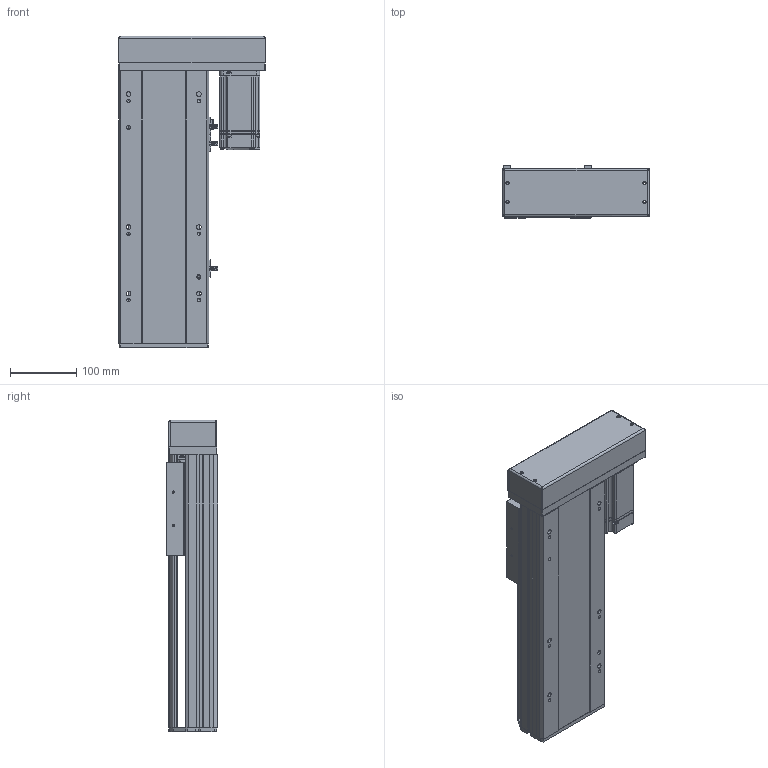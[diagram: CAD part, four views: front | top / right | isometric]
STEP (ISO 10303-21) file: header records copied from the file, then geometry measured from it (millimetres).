
FILE_DESCRIPTION (( 'STEP AP214' ), '1' );
FILE_NAME ('QTH14-200-BL-P40.STEP', '2021-11-13T04:19:18', ( '' ), ( '' ), 'SwSTEP 2.0', 'SolidWorks 2020', '' );
FILE_SCHEMA (( 'AUTOMOTIVE_DESIGN' ));
Length unit declared in the file: millimetre
Products named in the file (6): 葩璃 QTH14-BL-002 奻裔MZ-135-02^QTH14-BL-P40; 葩璃 QTH14-BC-005 賑釱MZ-135-03 ^QTH14-BL-P40_SFA16; QTH14-200-BL-P40; 葩璃 pm-t65-672^QTH14-BL-P40; 葩璃 QTH14-BL-001 菁釱MZ-135-01^QTH14-BL-P40; 葩璃 400W^QTH14-BL-P40
Assembly tree (7 placements, depth 2):
  QTH14-200-BL-P40
    葩璃 QTH14-BL-001 菁釱MZ-135-01^QTH14-BL-P40
    葩璃 QTH14-BL-002 奻裔MZ-135-02^QTH14-BL-P40
    葩璃 QTH14-BC-005 賑釱MZ-135-03 ^QTH14-BL-P40_SFA16
    葩璃 pm-t65-672^QTH14-BL-P40  x3
    葩璃 400W^QTH14-BL-P40
Bounding box: 220 x 78 x 468.5 mm (x, y, z)
Volume: 3708463.2 mm3; surface area: 537865.7 mm2
Topology: 12 solids, 12 shells, 1255 faces, 3330 edges, 2146 vertices
Faces by surface type: plane 725, cylinder 416, cone 88, bspline 26
Entity records: 33398 total; most frequent: CARTESIAN_POINT 6329, DIRECTION 5487, ORIENTED_EDGE 5276, EDGE_CURVE 2638, AXIS2_PLACEMENT_3D 1882, LINE 1723, VECTOR 1723, VERTEX_POINT 1722
